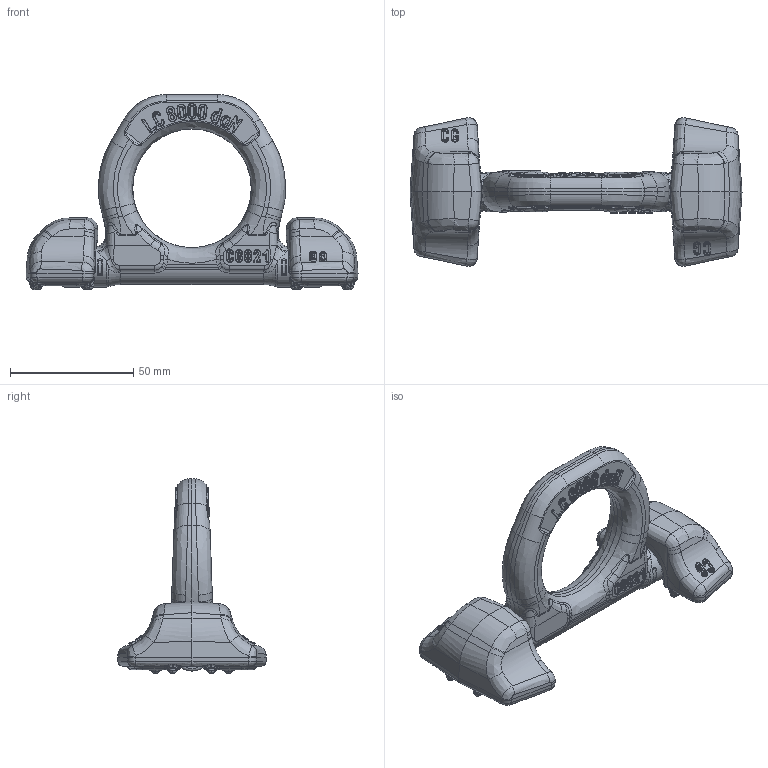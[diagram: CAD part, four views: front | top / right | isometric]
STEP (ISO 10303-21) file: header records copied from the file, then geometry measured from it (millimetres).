
FILE_DESCRIPTION(/* description */ (''),/* implementation_level */ '2;1');
FILE_NAME(/* name */ 'C821X08.stp',/* time_stamp */ '2011-12-02T14:10:27+01:00',/* author */ (''),/* organization */ (''),/* preprocessor_version */ 'ST-DEVELOPER v11',/* originating_system */ 'SIEMENS PLM Software NX 7.5',/* authorisation */ '');
FILE_SCHEMA (('CONFIG_CONTROL_DESIGN'));
Products named in the file (1): ugiiB87Ckf4u
Bounding box: 134.48 x 60.26 x 79 mm (x, y, z)
Volume: 93813.4 mm3; surface area: 24613.3 mm2
Topology: 3 solids, 3 shells, 2036 faces, 4884 edges, 2850 vertices
Faces by surface type: bspline 781, cylinder 645, plane 409, torus 143, sphere 48, cone 6, extrusion 4
Full cylindrical faces by diameter (mm): 16 x2
Entity records: 95386 total; most frequent: CARTESIAN_POINT 54554, ORIENTED_EDGE 9628, DIRECTION 7396, EDGE_CURVE 4814, AXIS2_PLACEMENT_3D 2964, VERTEX_POINT 2841, EDGE_LOOP 2095, ADVANCED_FACE 2036
